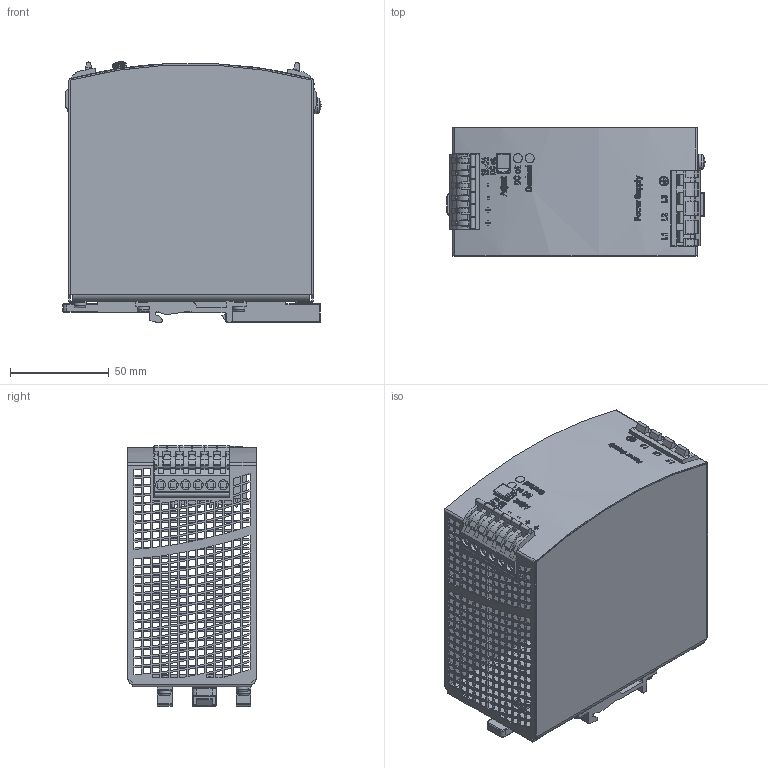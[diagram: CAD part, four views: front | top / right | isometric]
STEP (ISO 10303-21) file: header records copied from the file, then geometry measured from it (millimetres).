
FILE_DESCRIPTION((''),'2;1');
FILE_NAME('C:\Dokumente und Einstellungen\raabk-neu\Eigene Dateien\tmp\MOCKUP\QT20.241.stp','2007-12-05T15:44:45',('raabk'),(''),'Autodesk Inventor 11','Autodesk Inventor 11','');
FILE_SCHEMA(('AUTOMOTIVE_DESIGN { 1 0 10303 214 1 1 1 1 }'));
Length unit declared in the file: millimetre
Products named in the file (13): 347.00; HOUSING BODY 347.00; HOUSING COVER 347.00; SLIDER; T HOLDER; SCREW 3x6; SCREW 4x8; WASHER 4; POTENTIOMETER COVER; TERMINAL 6P R6,35; TERMINAL 4P R9,52; LED GN; LED RD
Assembly tree (18 placements, depth 2):
  347.00
    HOUSING BODY 347.00
    HOUSING COVER 347.00
    SLIDER
    T HOLDER  x2
    SCREW 3x6  x6
    SCREW 4x8
    WASHER 4
    POTENTIOMETER COVER
    TERMINAL 6P R6,35
    TERMINAL 4P R9,52
    LED GN
    LED RD
Bounding box: 130.77 x 65 x 131.99 mm (x, y, z)
Volume: 101539.9 mm3; surface area: 130644.3 mm2
Topology: 18 solids, 18 shells, 3662 faces, 10424 edges, 6910 vertices
Faces by surface type: plane 2953, bspline 345, cylinder 305, torus 26, cone 20, sphere 13
Full cylindrical faces by diameter (mm): 1.25 x6, 2.45 x6, 3 x6, 3.1 x4, 3.621 x1, 4 x1, 4.355 x1, 4.5 x3, 4.6 x2, 5 x6, 5.5 x4, 6 x6
Entity records: 208459 total; most frequent: CARTESIAN_POINT 116366, ORIENTED_EDGE 20056, DIRECTION 16112, EDGE_CURVE 10028, VECTOR 8448, LINE 8448, VERTEX_POINT 6667, EDGE_LOOP 4745
